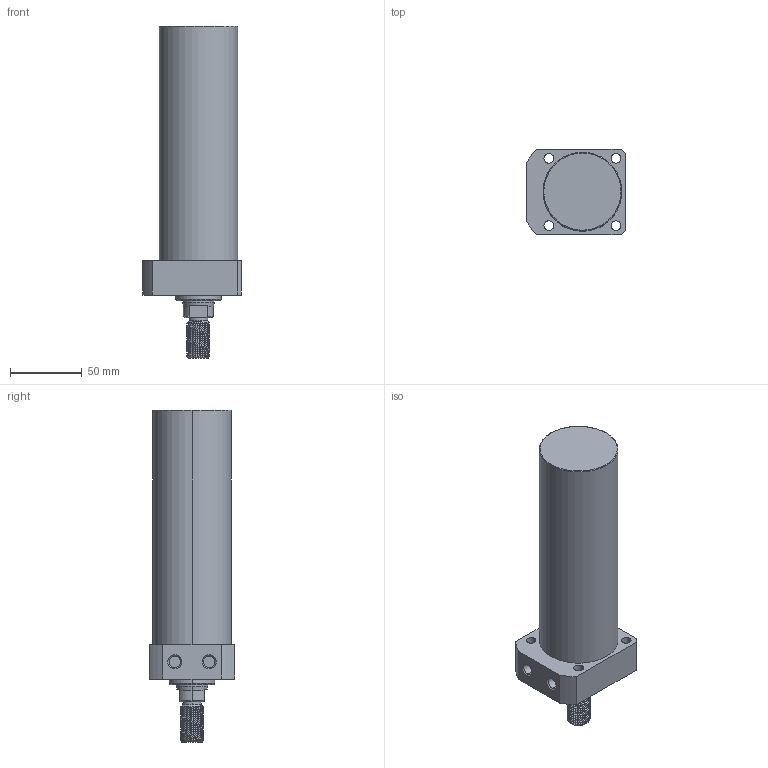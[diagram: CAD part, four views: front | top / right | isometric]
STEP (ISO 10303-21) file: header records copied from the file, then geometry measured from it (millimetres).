
FILE_DESCRIPTION (( 'STEP AP214' ), '1' );
FILE_NAME ('CLLR-055CT-135.STEP', '2020-01-10T00:58:46', ( 'Windows' ), ( 'Microsoft' ), 'SwSTEP 2.0', 'SolidWorks 2015', '' );
FILE_SCHEMA (( 'AUTOMOTIVE_DESIGN' ));
Length unit declared in the file: millimetre
Products named in the file (1): CLLR-055CT-135
Bounding box: 69 x 60 x 232 mm (x, y, z)
Volume: 494399.7 mm3; surface area: 48113.7 mm2
Topology: 1 solids, 1 shells, 101 faces, 259 edges, 168 vertices
Faces by surface type: cylinder 62, plane 20, cone 15, torus 2, bspline 2
Entity records: 5034 total; most frequent: CARTESIAN_POINT 2644, ORIENTED_EDGE 518, DIRECTION 458, EDGE_CURVE 259, AXIS2_PLACEMENT_3D 180, VERTEX_POINT 168, EDGE_LOOP 117, FACE_OUTER_BOUND 101
